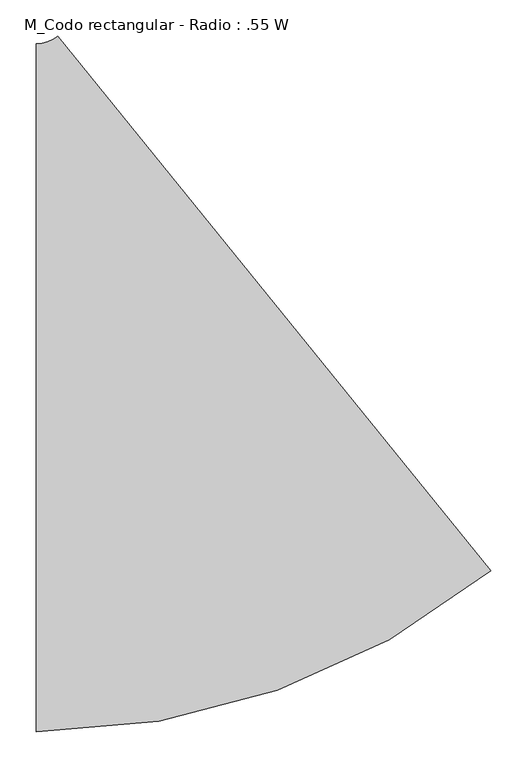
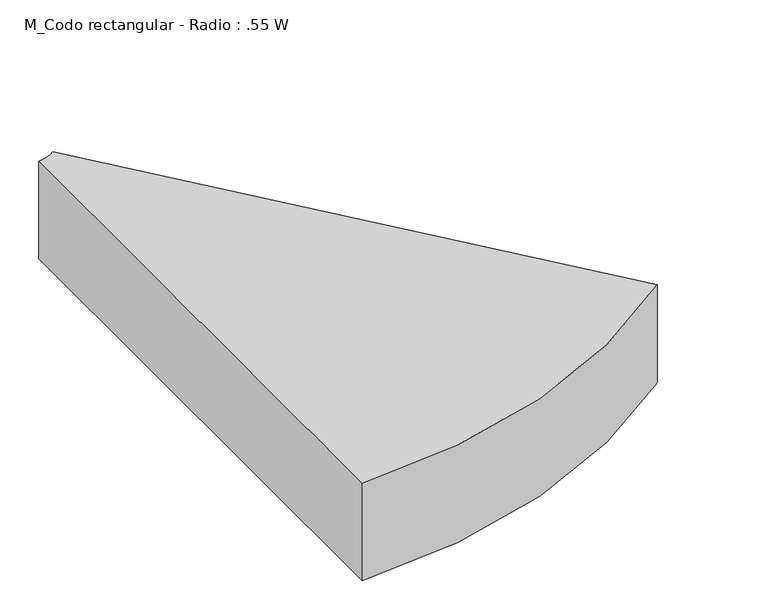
"""IFC4 building model written with IfcOpenShell, lengths in millimetres: duct fitting geometry, M_Codo rectangular - Radio : .55 W."""

from ifc_helpers import new_model, si_unit, point, frame, frame_2d, origin, place, context, project, spatial, polyline, circle_curve, trimmed, segment, composite_curve, outline, extrude, source, transform, mapped, element, save


def m_codo_rectangular_radio_55_w_285d3206(model_context):
    return source(origin(), model_context, "Body", "SweptSolid", [
        extrude(outline(composite_curve([segment(trimmed(circle_curve(frame_2d((-185.0269541, 522.5)), 997.5), [point((442.7201359, -252.7030966))], [point((-185.0269541, -475.0))], False, "CARTESIAN"), True, "CONTINUOUS"), segment(polyline([(-185.0269541, -475.0), (-185.0269541, 475.0)]), True, "CONTINUOUS"), segment(trimmed(circle_curve(frame_2d((-185.0269541, 522.5)), 47.5), [point((-185.0269541, 475.0))], [point((-155.1342356, 485.5855668))], True, "CARTESIAN"), True, "CONTINUOUS"), segment(polyline([(-155.1342356, 485.5855668), (442.7201359, -252.7030966)]), True, "CONTINUOUS")], self_intersect=False)), frame((0.0, 0.0, -87.5), z_axis=(0.0, 0.0, 1.0), x_axis=(1.0, 0.0, 0.0)), (0.0, 0.0, 1.0), 175.0),
    ])


if __name__ == "__main__":
    model = new_model("IFC4")
    model_context = context("Model", 3, world=origin())
    ifc_project = project(units=[si_unit("LENGTHUNIT", "METRE", prefix="MILLI")], contexts=[model_context])
    site = spatial("IfcSite", under=ifc_project)
    building = spatial("IfcBuilding", under=site)
    placement = place(None, origin())
    m_codo_rectangular_radio_55_w_shape = m_codo_rectangular_radio_55_w_285d3206(model_context)
    element("IfcDuctFitting", 1, ObjectType="M_Codo rectangular - Radio : .55 W", at=placement, inside=building, context=model_context, shape_type="MappedRepresentation", body=[
        mapped(m_codo_rectangular_radio_55_w_shape, transform((0.0, 0.0, 0.0), x_axis=(1.0, 0.0, 0.0), y_axis=(0.0, 1.0, 0.0), z_axis=(0.0, 0.0, 1.0))),
    ])
    save(model, "model.ifc")
